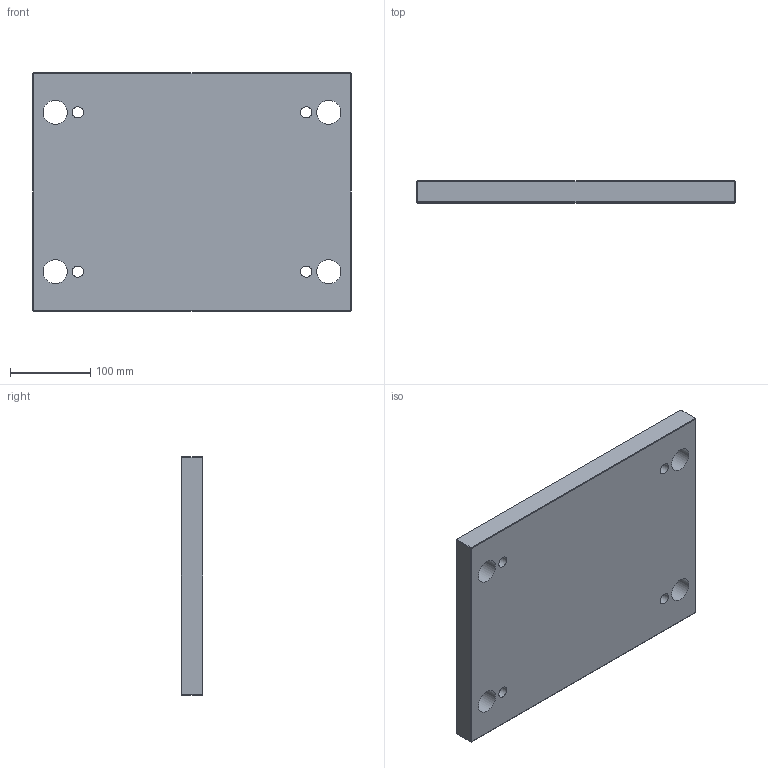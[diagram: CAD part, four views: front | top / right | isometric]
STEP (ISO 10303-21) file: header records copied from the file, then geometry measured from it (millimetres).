
FILE_DESCRIPTION(/* description */ ('STEP AP214'),/* implementation_level */ '2;1');
FILE_NAME(/* name */ 'KM0102463960271730',/* time_stamp */ '2026-06-18T11:49:22+02:00',/* author */ ('License CC BY-ND 4.0'),/* organization */ ('CADENAS'),/* preprocessor_version */ 'ST-DEVELOPER v20',/* originating_system */ 'PARTsolutions',/* authorisation */ ' ');
FILE_SCHEMA (('FEATURE_BASED_PROCESS_PLANNING','MODEL_BASED_INTEGRATED_MANUFACTURING_SCHEMA','PROCESS_PLANNING_SCHEMA','AUTOMOTIVE_DESIGN {1 0 10303 214 3 1 1}'));
Length unit declared in the file: millimetre
Products named in the file (1): KM0102463960271730
Bounding box: 396 x 27 x 296 mm (x, y, z)
Volume: 3035053.4 mm3; surface area: 280455.9 mm2
Topology: 1 solids, 1 shells, 36 faces, 87 edges, 58 vertices
Faces by surface type: plane 23, cylinder 13
Full cylindrical faces by diameter (mm): 14 x4, 20 x4, 30 x4, 90 x1
Entity records: 1054 total; most frequent: DIRECTION 174, CARTESIAN_POINT 169, ORIENTED_EDGE 148, EDGE_CURVE 74, EDGE_LOOP 70, FACE_BOUND 70, AXIS2_PLACEMENT_3D 63, VERTEX_POINT 58
